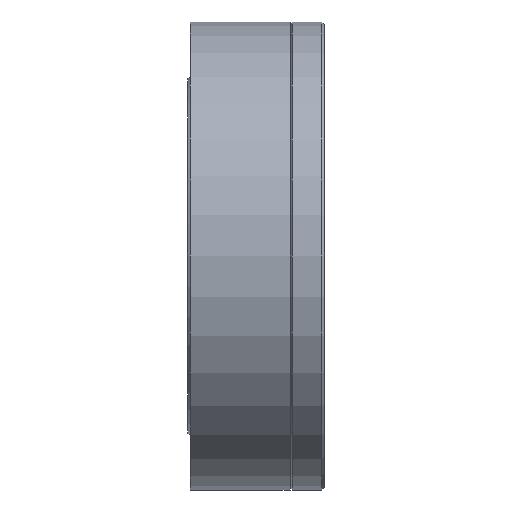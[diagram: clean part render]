
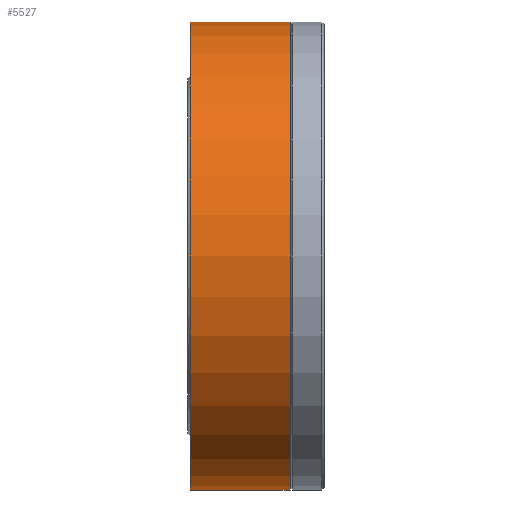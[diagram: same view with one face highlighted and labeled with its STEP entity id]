
A CAD part, front view. The second image highlights one B-rep face of the part: STEP entity #5527.
In plain terms, the highlighted cylindrical face has radius 55 mm (diameter 110 mm), a partial arc.
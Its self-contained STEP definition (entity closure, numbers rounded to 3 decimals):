
#1713 = ORIENTED_EDGE ( 'NONE', *, *, #11847, .T. ) ;
#1858 = CARTESIAN_POINT ( 'NONE',  ( 0., 0., -55. ) ) ;
#2614 = ORIENTED_EDGE ( 'NONE', *, *, #23321, .F. ) ;
#3876 = AXIS2_PLACEMENT_3D ( 'NONE', #7742, #21943, #15887 ) ;
#5527 = ADVANCED_FACE ( 'NONE', ( #23251 ), #17716, .T. ) ;
#6361 = VECTOR ( 'NONE', #18611, 1000. ) ;
#7484 = CARTESIAN_POINT ( 'NONE',  ( 0., 0., -55. ) ) ;
#7500 = CARTESIAN_POINT ( 'NONE',  ( 23.4, 0., -55. ) ) ;
#7742 = CARTESIAN_POINT ( 'NONE',  ( 0., 0., 0. ) ) ;
#8180 = AXIS2_PLACEMENT_3D ( 'NONE', #9112, #23637, #24777 ) ;
#9112 = CARTESIAN_POINT ( 'NONE',  ( 0., 0., 0. ) ) ;
#9348 = EDGE_LOOP ( 'NONE', ( #15883, #1713, #20129, #2614 ) ) ;
#10448 = LINE ( 'NONE', #26182, #11411 ) ;
#11356 = CARTESIAN_POINT ( 'NONE',  ( 0., 0., 55. ) ) ;
#11411 = VECTOR ( 'NONE', #11727, 1000. ) ;
#11622 = VERTEX_POINT ( 'NONE', #21990 ) ;
#11727 = DIRECTION ( 'NONE',  ( -1., 0., 0. ) ) ;
#11847 = EDGE_CURVE ( 'NONE', #12919, #11622, #25909, .T. ) ;
#12524 = EDGE_CURVE ( 'NONE', #12919, #17259, #21653, .T. ) ;
#12919 = VERTEX_POINT ( 'NONE', #7500 ) ;
#14319 = DIRECTION ( 'NONE',  ( -1., 0., 0. ) ) ;
#15883 = ORIENTED_EDGE ( 'NONE', *, *, #12524, .F. ) ;
#15887 = DIRECTION ( 'NONE',  ( 0., 0., 1. ) ) ;
#16548 = EDGE_CURVE ( 'NONE', #11622, #21493, #10448, .T. ) ;
#17259 = VERTEX_POINT ( 'NONE', #7484 ) ;
#17716 = CYLINDRICAL_SURFACE ( 'NONE', #8180, 55. ) ;
#18611 = DIRECTION ( 'NONE',  ( -1., 0., 0. ) ) ;
#20129 = ORIENTED_EDGE ( 'NONE', *, *, #16548, .T. ) ;
#21493 = VERTEX_POINT ( 'NONE', #11356 ) ;
#21653 = LINE ( 'NONE', #1858, #6361 ) ;
#21943 = DIRECTION ( 'NONE',  ( -1., 0., 0. ) ) ;
#21990 = CARTESIAN_POINT ( 'NONE',  ( 23.4, 0., 55. ) ) ;
#22451 = CARTESIAN_POINT ( 'NONE',  ( 23.4, 0., 0. ) ) ;
#22627 = DIRECTION ( 'NONE',  ( 0., 0., 1. ) ) ;
#23251 = FACE_OUTER_BOUND ( 'NONE', #9348, .T. ) ;
#23321 = EDGE_CURVE ( 'NONE', #17259, #21493, #25361, .T. ) ;
#23637 = DIRECTION ( 'NONE',  ( -1., 0., 0. ) ) ;
#24777 = DIRECTION ( 'NONE',  ( 0., 0., 1. ) ) ;
#25361 = CIRCLE ( 'NONE', #3876, 55. ) ;
#25909 = CIRCLE ( 'NONE', #26272, 55. ) ;
#26182 = CARTESIAN_POINT ( 'NONE',  ( 0., 0., 55. ) ) ;
#26272 = AXIS2_PLACEMENT_3D ( 'NONE', #22451, #14319, #22627 ) ;
